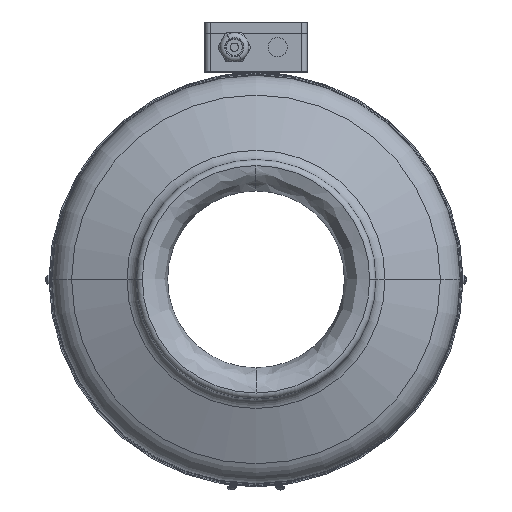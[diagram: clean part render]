
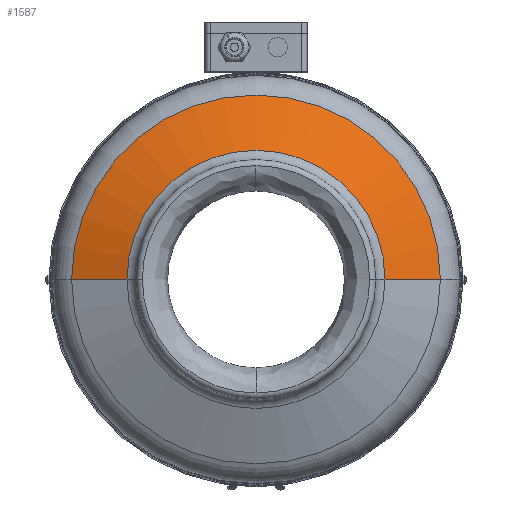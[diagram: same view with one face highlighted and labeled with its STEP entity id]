
A CAD part, top view. The second image highlights one B-rep face of the part: STEP entity #1587.
In plain terms, the highlighted conical face has half-angle 69.263 degrees and reference radius 107.251 mm.
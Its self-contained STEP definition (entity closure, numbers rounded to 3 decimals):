
#723 = EDGE_CURVE ( 'NONE', #1407, #1314, #6360, .T. ) ;
#729 = EDGE_CURVE ( 'NONE', #1463, #1389, #6396, .T. ) ;
#1091 = EDGE_CURVE ( 'NONE', #1314, #1389, #5900, .T. ) ;
#1314 = VERTEX_POINT ( 'NONE', #2138 ) ;
#1389 = VERTEX_POINT ( 'NONE', #2592 ) ;
#1407 = VERTEX_POINT ( 'NONE', #2404 ) ;
#1463 = VERTEX_POINT ( 'NONE', #1949 ) ;
#1587 = ADVANCED_FACE ( 'NONE', ( #8033 ), #8147, .T. ) ;
#1949 = CARTESIAN_POINT ( 'NONE',  ( 107.251, 0., 87.777 ) ) ;
#2138 = CARTESIAN_POINT ( 'NONE',  ( -153.202, 0., 70.38 ) ) ;
#2404 = CARTESIAN_POINT ( 'NONE',  ( -107.251, 0., 87.777 ) ) ;
#2412 = DIRECTION ( 'NONE',  ( -1., 0., 0. ) ) ;
#2416 = DIRECTION ( 'NONE',  ( 0., 0., -1. ) ) ;
#2592 = CARTESIAN_POINT ( 'NONE',  ( 153.202, 0., 70.38 ) ) ;
#2701 = CARTESIAN_POINT ( 'NONE',  ( 0., 0., 87.777 ) ) ;
#2966 = DIRECTION ( 'NONE',  ( 0., 0., -1. ) ) ;
#2984 = DIRECTION ( 'NONE',  ( -1., 0., 0. ) ) ;
#3218 = CARTESIAN_POINT ( 'NONE',  ( 0., 0., 87.777 ) ) ;
#3387 = CARTESIAN_POINT ( 'NONE',  ( -107.251, 0., 87.777 ) ) ;
#3405 = DIRECTION ( 'NONE',  ( -0.935, 0., -0.354 ) ) ;
#3428 = DIRECTION ( 'NONE',  ( 0.935, 0., -0.354 ) ) ;
#3521 = CARTESIAN_POINT ( 'NONE',  ( 107.251, 0., 87.777 ) ) ;
#3859 = CARTESIAN_POINT ( 'NONE',  ( 0., 0., 70.38 ) ) ;
#4477 = DIRECTION ( 'NONE',  ( -1., 0., 0. ) ) ;
#4525 = DIRECTION ( 'NONE',  ( 0., 0., -1. ) ) ;
#4831 = AXIS2_PLACEMENT_3D ( 'NONE', #3218, #2966, #2984 ) ;
#4989 = EDGE_CURVE ( 'NONE', #1407, #1463, #8258, .T. ) ;
#5150 = AXIS2_PLACEMENT_3D ( 'NONE', #2701, #2416, #2412 ) ;
#5195 = AXIS2_PLACEMENT_3D ( 'NONE', #3859, #4525, #4477 ) ;
#5900 = CIRCLE ( 'NONE', #5195, 153.202 ) ;
#6341 = VECTOR ( 'NONE', #3405, 1000. ) ;
#6343 = VECTOR ( 'NONE', #3428, 1000. ) ;
#6360 = LINE ( 'NONE', #3387, #6341 ) ;
#6396 = LINE ( 'NONE', #3521, #6343 ) ;
#6607 = ORIENTED_EDGE ( 'NONE', *, *, #723, .F. ) ;
#6724 = ORIENTED_EDGE ( 'NONE', *, *, #1091, .F. ) ;
#6792 = EDGE_LOOP ( 'NONE', ( #7072, #7114, #6724, #6607 ) ) ;
#7072 = ORIENTED_EDGE ( 'NONE', *, *, #4989, .T. ) ;
#7114 = ORIENTED_EDGE ( 'NONE', *, *, #729, .T. ) ;
#8033 = FACE_OUTER_BOUND ( 'NONE', #6792, .T. ) ;
#8147 = CONICAL_SURFACE ( 'NONE', #5150, 107.251, 1.209 ) ;
#8258 = CIRCLE ( 'NONE', #4831, 107.251 ) ;
